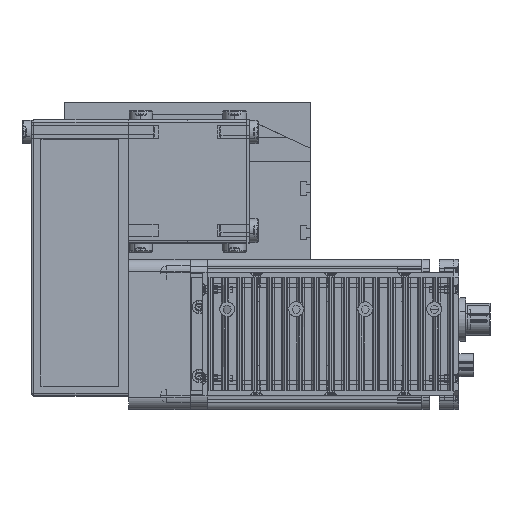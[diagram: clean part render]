
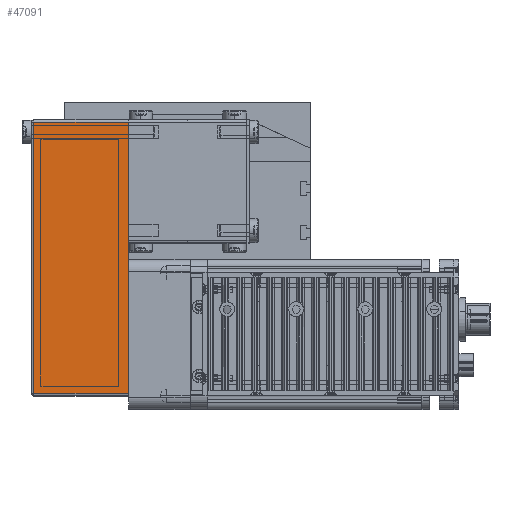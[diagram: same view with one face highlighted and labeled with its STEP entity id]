
A CAD part, top view. The second image highlights one B-rep face of the part: STEP entity #47091.
In plain terms, the highlighted planar face has unit normal (0, 0, 1) as drawn and (0, 1, 0) by its records, which use the part's own axes.
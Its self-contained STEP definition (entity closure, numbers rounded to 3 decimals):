
#46001 = CARTESIAN_POINT ( 'NONE',  ( -49., 25., 0. ) ) ;
#46006 = LINE ( 'NONE', #46060, #46057 ) ;
#46055 = CARTESIAN_POINT ( 'NONE',  ( -49., 25., 38.5 ) ) ;
#46056 = DIRECTION ( 'NONE',  ( 0., 0., -1. ) ) ;
#46057 = VECTOR ( 'NONE', #46056, 1000. ) ;
#46060 = CARTESIAN_POINT ( 'NONE',  ( -49., 25., 39.5 ) ) ;
#46093 = LINE ( 'NONE', #46139, #46138 ) ;
#46095 = CARTESIAN_POINT ( 'NONE',  ( 61., 25., 0. ) ) ;
#46097 = CARTESIAN_POINT ( 'NONE',  ( 61., 25., 38.5 ) ) ;
#46137 = DIRECTION ( 'NONE',  ( 0., 0., 1. ) ) ;
#46138 = VECTOR ( 'NONE', #46137, 1000. ) ;
#46139 = CARTESIAN_POINT ( 'NONE',  ( 61., 25., 39.5 ) ) ;
#46214 = AXIS2_PLACEMENT_3D ( 'NONE', #46222, #46268, #46254 ) ;
#46222 = CARTESIAN_POINT ( 'NONE',  ( -50., 25., 39.5 ) ) ;
#46254 = DIRECTION ( 'NONE',  ( 0., 0., -1. ) ) ;
#46257 = FACE_OUTER_BOUND ( 'NONE', #47093, .T. ) ;
#46268 = DIRECTION ( 'NONE',  ( 0., -1., 0. ) ) ;
#46269 = PLANE ( 'NONE',  #46214 ) ;
#46277 = DIRECTION ( 'NONE',  ( -1., 0., 0. ) ) ;
#46278 = VECTOR ( 'NONE', #46277, 1000. ) ;
#46279 = CARTESIAN_POINT ( 'NONE',  ( -50., 25., 0. ) ) ;
#46285 = LINE ( 'NONE', #46279, #46278 ) ;
#46288 = DIRECTION ( 'NONE',  ( -1., 0., 0. ) ) ;
#46289 = VECTOR ( 'NONE', #46288, 1000. ) ;
#46290 = CARTESIAN_POINT ( 'NONE',  ( -50., 25., 38.5 ) ) ;
#46291 = LINE ( 'NONE', #46290, #46289 ) ;
#46989 = EDGE_CURVE ( 'NONE', #46993, #46991, #46006, .T. ) ;
#46991 = VERTEX_POINT ( 'NONE', #46001 ) ;
#46993 = VERTEX_POINT ( 'NONE', #46055 ) ;
#47010 = VERTEX_POINT ( 'NONE', #46097 ) ;
#47012 = VERTEX_POINT ( 'NONE', #46095 ) ;
#47018 = EDGE_CURVE ( 'NONE', #47012, #47010, #46093, .T. ) ;
#47091 = ADVANCED_FACE ( 'NONE', ( #46257 ), #46269, .F. ) ;
#47093 = EDGE_LOOP ( 'NONE', ( #47097, #47098, #47101, #47094 ) ) ;
#47094 = ORIENTED_EDGE ( 'NONE', *, *, #47110, .T. ) ;
#47097 = ORIENTED_EDGE ( 'NONE', *, *, #46989, .F. ) ;
#47098 = ORIENTED_EDGE ( 'NONE', *, *, #47107, .F. ) ;
#47101 = ORIENTED_EDGE ( 'NONE', *, *, #47018, .F. ) ;
#47107 = EDGE_CURVE ( 'NONE', #47010, #46993, #46291, .T. ) ;
#47110 = EDGE_CURVE ( 'NONE', #47012, #46991, #46285, .T. ) ;
